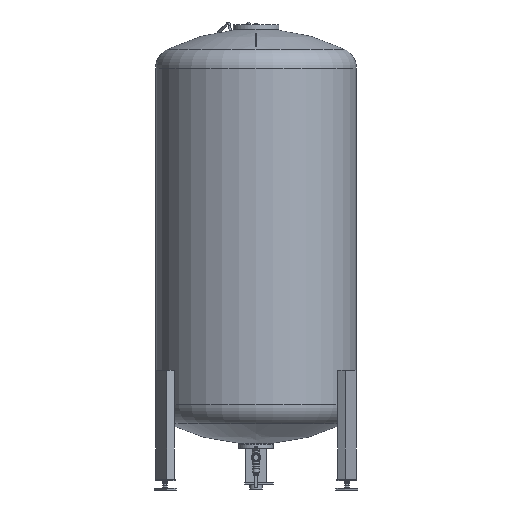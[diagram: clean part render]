
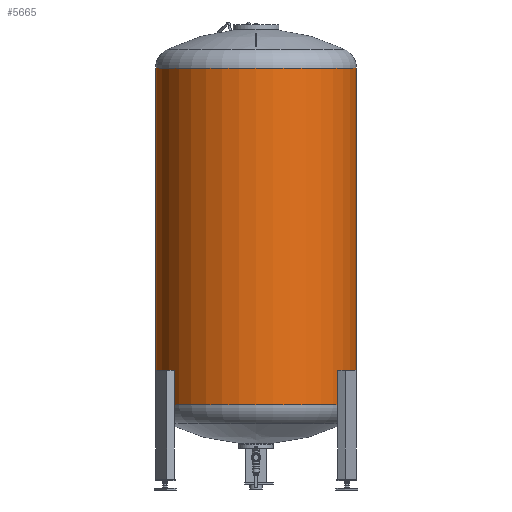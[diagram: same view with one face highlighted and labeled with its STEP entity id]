
A CAD part, left-side view. The second image highlights one B-rep face of the part: STEP entity #5665.
In plain terms, the highlighted cylindrical face has radius 750 mm (diameter 1500 mm), a full revolution.
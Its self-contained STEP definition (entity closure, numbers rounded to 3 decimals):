
#58=FACE_BOUND('',#1030,.T.);
#112=ELLIPSE('',#6014,1500.,750.);
#113=ELLIPSE('',#6022,1500.,750.);
#119=CYLINDRICAL_SURFACE('',#6027,750.);
#213=CIRCLE('',#6024,750.);
#214=CIRCLE('',#6026,750.);
#215=CIRCLE('',#6028,750.);
#216=CIRCLE('',#6029,750.);
#217=CIRCLE('',#6030,750.);
#218=CIRCLE('',#6031,750.);
#219=CIRCLE('',#6032,750.);
#220=CIRCLE('',#6033,750.);
#221=CIRCLE('',#6034,750.);
#709=FACE_OUTER_BOUND('',#1029,.T.);
#1029=EDGE_LOOP('',(#3738,#3739,#3740,#3741,#3742,#3743));
#1030=EDGE_LOOP('',(#3744,#3745,#3746,#3747,#3748,#3749,#3750,#3751,#3752,
#3753,#3754,#3755,#3756));
#1396=LINE('',#8790,#1765);
#1402=LINE('',#8802,#1771);
#1409=LINE('',#8817,#1778);
#1415=LINE('',#8828,#1784);
#1428=LINE('',#8863,#1797);
#1429=LINE('',#8868,#1798);
#1430=LINE('',#8873,#1799);
#1765=VECTOR('',#6825,10.);
#1771=VECTOR('',#6831,10.);
#1778=VECTOR('',#6840,10.);
#1784=VECTOR('',#6846,10.);
#1797=VECTOR('',#6885,750.);
#1798=VECTOR('',#6890,10.);
#1799=VECTOR('',#6895,10.);
#2185=VERTEX_POINT('',#8781);
#2186=VERTEX_POINT('',#8782);
#2188=VERTEX_POINT('',#8788);
#2189=VERTEX_POINT('',#8789);
#2194=VERTEX_POINT('',#8799);
#2195=VERTEX_POINT('',#8801);
#2201=VERTEX_POINT('',#8815);
#2202=VERTEX_POINT('',#8816);
#2207=VERTEX_POINT('',#8827);
#2213=VERTEX_POINT('',#8854);
#2214=VERTEX_POINT('',#8858);
#2215=VERTEX_POINT('',#8859);
#2216=VERTEX_POINT('',#8862);
#2217=VERTEX_POINT('',#8864);
#2218=VERTEX_POINT('',#8867);
#2219=VERTEX_POINT('',#8870);
#2220=VERTEX_POINT('',#8872);
#2796=EDGE_CURVE('',#2185,#2186,#112,.T.);
#2799=EDGE_CURVE('',#2188,#2189,#1396,.T.);
#2805=EDGE_CURVE('',#2195,#2194,#1402,.T.);
#2812=EDGE_CURVE('',#2201,#2202,#1409,.T.);
#2818=EDGE_CURVE('',#2207,#2185,#1415,.T.);
#2829=EDGE_CURVE('',#2186,#2195,#113,.T.);
#2830=EDGE_CURVE('',#2189,#2201,#213,.T.);
#2833=EDGE_CURVE('',#2202,#2213,#214,.T.);
#2834=EDGE_CURVE('',#2214,#2215,#215,.T.);
#2835=EDGE_CURVE('',#2215,#2214,#216,.T.);
#2836=EDGE_CURVE('',#2215,#2216,#1428,.T.);
#2837=EDGE_CURVE('',#2216,#2217,#217,.T.);
#2838=EDGE_CURVE('',#2217,#2216,#218,.T.);
#2839=EDGE_CURVE('',#2213,#2218,#1429,.T.);
#2840=EDGE_CURVE('',#2218,#2207,#219,.T.);
#2841=EDGE_CURVE('',#2194,#2219,#220,.T.);
#2842=EDGE_CURVE('',#2219,#2220,#1430,.T.);
#2843=EDGE_CURVE('',#2220,#2188,#221,.T.);
#3738=ORIENTED_EDGE('',*,*,#2834,.F.);
#3739=ORIENTED_EDGE('',*,*,#2835,.F.);
#3740=ORIENTED_EDGE('',*,*,#2836,.T.);
#3741=ORIENTED_EDGE('',*,*,#2837,.T.);
#3742=ORIENTED_EDGE('',*,*,#2838,.T.);
#3743=ORIENTED_EDGE('',*,*,#2836,.F.);
#3744=ORIENTED_EDGE('',*,*,#2799,.T.);
#3745=ORIENTED_EDGE('',*,*,#2830,.T.);
#3746=ORIENTED_EDGE('',*,*,#2812,.T.);
#3747=ORIENTED_EDGE('',*,*,#2833,.T.);
#3748=ORIENTED_EDGE('',*,*,#2839,.T.);
#3749=ORIENTED_EDGE('',*,*,#2840,.T.);
#3750=ORIENTED_EDGE('',*,*,#2818,.T.);
#3751=ORIENTED_EDGE('',*,*,#2796,.T.);
#3752=ORIENTED_EDGE('',*,*,#2829,.T.);
#3753=ORIENTED_EDGE('',*,*,#2805,.T.);
#3754=ORIENTED_EDGE('',*,*,#2841,.T.);
#3755=ORIENTED_EDGE('',*,*,#2842,.T.);
#3756=ORIENTED_EDGE('',*,*,#2843,.T.);
#5665=ADVANCED_FACE('',(#709,#58),#119,.T.);
#6014=AXIS2_PLACEMENT_3D('',#8783,#6819,#6820);
#6022=AXIS2_PLACEMENT_3D('',#8848,#6867,#6868);
#6024=AXIS2_PLACEMENT_3D('',#8850,#6871,#6872);
#6026=AXIS2_PLACEMENT_3D('',#8856,#6877,#6878);
#6027=AXIS2_PLACEMENT_3D('',#8857,#6879,#6880);
#6028=AXIS2_PLACEMENT_3D('',#8860,#6881,#6882);
#6029=AXIS2_PLACEMENT_3D('',#8861,#6883,#6884);
#6030=AXIS2_PLACEMENT_3D('',#8865,#6886,#6887);
#6031=AXIS2_PLACEMENT_3D('',#8866,#6888,#6889);
#6032=AXIS2_PLACEMENT_3D('',#8869,#6891,#6892);
#6033=AXIS2_PLACEMENT_3D('',#8871,#6893,#6894);
#6034=AXIS2_PLACEMENT_3D('',#8874,#6896,#6897);
#6819=DIRECTION('center_axis',(-0.772,-0.393,0.5));
#6820=DIRECTION('ref_axis',(-0.446,-0.227,-0.866));
#6825=DIRECTION('',(0.,0.,-1.));
#6831=DIRECTION('',(0.,0.,-1.));
#6840=DIRECTION('',(0.,0.,1.));
#6846=DIRECTION('',(0.,0.,1.));
#6867=DIRECTION('center_axis',(-0.772,-0.393,0.5));
#6868=DIRECTION('ref_axis',(-0.446,-0.227,-0.866));
#6871=DIRECTION('center_axis',(0.,0.,
-1.));
#6872=DIRECTION('ref_axis',(-1.,0.,0.));
#6877=DIRECTION('center_axis',(0.,0.,
-1.));
#6878=DIRECTION('ref_axis',(-1.,0.,0.));
#6879=DIRECTION('center_axis',(0.,0.,-1.));
#6880=DIRECTION('ref_axis',(-1.,0.,0.));
#6881=DIRECTION('center_axis',(0.,0.,-1.));
#6882=DIRECTION('ref_axis',(1.,0.,0.));
#6883=DIRECTION('center_axis',(0.,0.,-1.));
#6884=DIRECTION('ref_axis',(1.,0.,0.));
#6885=DIRECTION('',(0.,0.,1.));
#6886=DIRECTION('center_axis',(0.,0.,-1.));
#6887=DIRECTION('ref_axis',(1.,0.,0.));
#6888=DIRECTION('center_axis',(0.,0.,-1.));
#6889=DIRECTION('ref_axis',(1.,0.,0.));
#6890=DIRECTION('',(0.,0.,1.));
#6891=DIRECTION('center_axis',(0.,0.,
1.));
#6892=DIRECTION('ref_axis',(-1.,0.,0.));
#6893=DIRECTION('center_axis',(0.,0.,
1.));
#6894=DIRECTION('ref_axis',(-1.,0.,0.));
#6895=DIRECTION('',(0.,0.,-1.));
#6896=DIRECTION('center_axis',(0.,0.,
-1.));
#6897=DIRECTION('ref_axis',(-1.,0.,0.));
#8781=CARTESIAN_POINT('',(712.561,234.001,1678.789));
#8782=CARTESIAN_POINT('',(668.255,340.493,1694.151));
#8783=CARTESIAN_POINT('Origin',(0.,0.,395.113));
#8788=CARTESIAN_POINT('',(608.144,438.932,1139.12));
#8789=CARTESIAN_POINT('',(608.144,438.932,1042.17));
#8790=CARTESIAN_POINT('',(608.144,438.932,1893.212));
#8799=CARTESIAN_POINT('',(608.144,438.932,1379.12));
#8801=CARTESIAN_POINT('',(608.144,438.932,1678.789));
#8802=CARTESIAN_POINT('',(608.144,438.932,1893.212));
#8815=CARTESIAN_POINT('',(712.561,234.001,1042.17));
#8816=CARTESIAN_POINT('',(712.561,234.001,1139.12));
#8817=CARTESIAN_POINT('',(712.561,234.001,1893.212));
#8827=CARTESIAN_POINT('',(712.561,234.001,1379.12));
#8828=CARTESIAN_POINT('',(712.561,234.001,1893.212));
#8848=CARTESIAN_POINT('Origin',(0.,0.,395.113));
#8850=CARTESIAN_POINT('Origin',(0.,0.,1042.17));
#8854=CARTESIAN_POINT('',(725.51,190.094,1139.12));
#8856=CARTESIAN_POINT('Origin',(0.,0.,1139.12));
#8857=CARTESIAN_POINT('Origin',(0.,0.,1893.212));
#8858=CARTESIAN_POINT('',(-750.,0.,637.468));
#8859=CARTESIAN_POINT('',(750.,0.,637.468));
#8860=CARTESIAN_POINT('Origin',(0.,0.,637.468));
#8861=CARTESIAN_POINT('Origin',(0.,0.,637.468));
#8862=CARTESIAN_POINT('',(750.,0.,3148.955));
#8863=CARTESIAN_POINT('',(750.,0.,1893.212));
#8864=CARTESIAN_POINT('',(-750.,0.,3148.955));
#8865=CARTESIAN_POINT('Origin',(0.,0.,3148.955));
#8866=CARTESIAN_POINT('Origin',(0.,0.,3148.955));
#8867=CARTESIAN_POINT('',(725.51,190.094,1379.12));
#8868=CARTESIAN_POINT('',(725.51,190.094,1893.212));
#8869=CARTESIAN_POINT('Origin',(0.,0.,1379.12));
#8870=CARTESIAN_POINT('',(573.683,483.102,1379.12));
#8871=CARTESIAN_POINT('Origin',(0.,0.,1379.12));
#8872=CARTESIAN_POINT('',(573.683,483.102,1139.12));
#8873=CARTESIAN_POINT('',(573.683,483.102,1893.212));
#8874=CARTESIAN_POINT('Origin',(0.,0.,1139.12));
